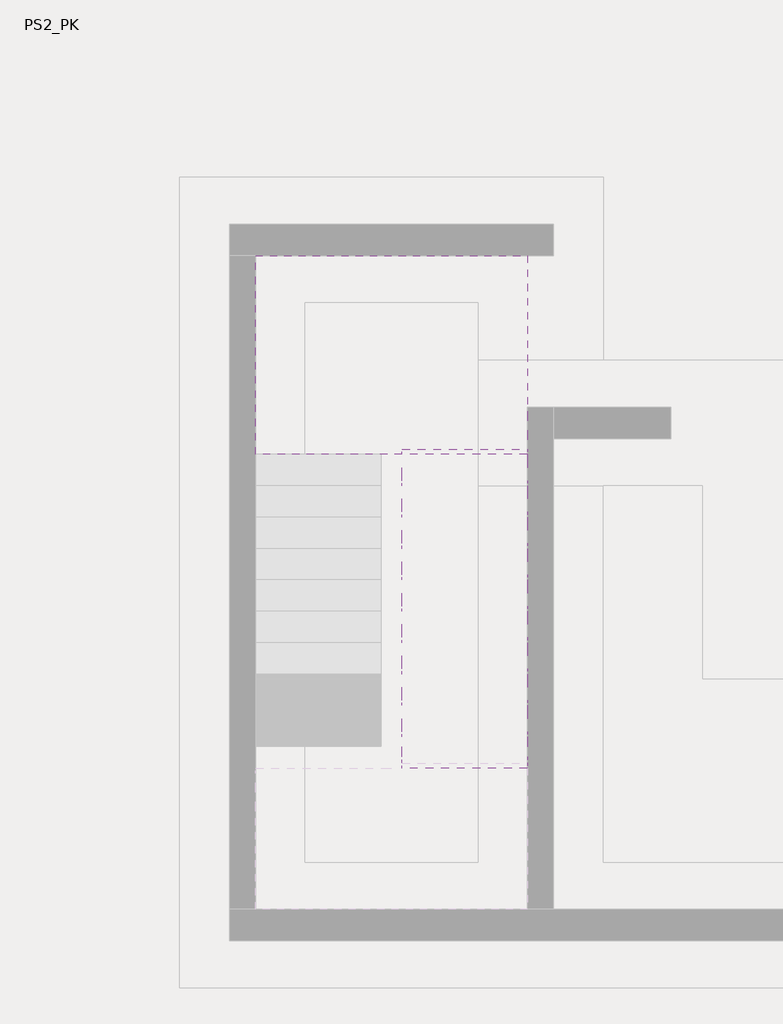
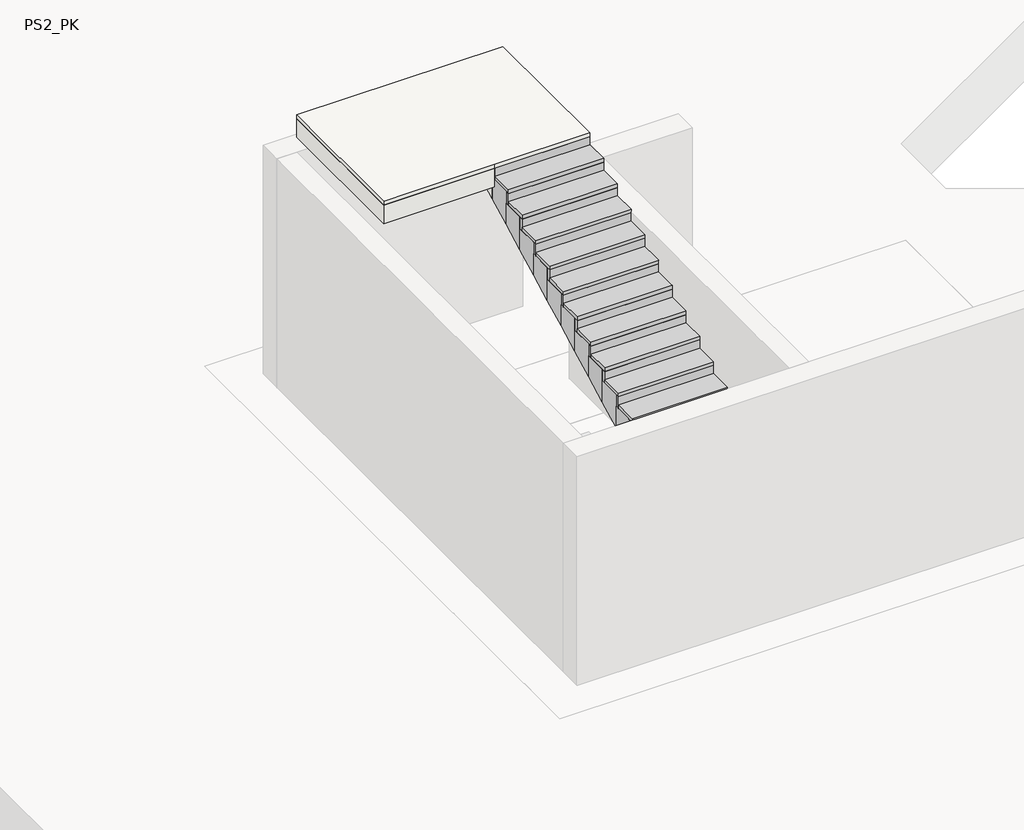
# One storey, part 10 of 10: 1 slab, 1 stair flight.
"""IFC4 building model written with IfcOpenShell, lengths in millimetres."""

from ifc_helpers import new_model, si_unit, frame, origin, place, context, project, spatial, polyline, outline, extrude, faceted_brep, element, save

model = new_model("IFC4")

# Units and contexts
model_context = context("Model", 3, world=origin())
ifc_project = project(units=[si_unit("LENGTHUNIT", "METRE", prefix="MILLI")], contexts=[model_context])

# Site, building, storey
site = spatial("IfcSite", under=ifc_project)
building = spatial("IfcBuilding", under=site)
storey = spatial("IfcBuildingStorey", under=building, Name="PS2_PK", Elevation=-1600.0)

# Slab
placement = place(None, origin())
element("IfcSlab", 1, ObjectType="250mm_Thickness", at=placement, inside=storey, context=model_context, shape_type="SolidModel", body=[
    faceted_brep([(-11990.2146087, 11964.882711, 1900.0), (-11990.2146087, 12014.882711, 1900.0), (-10790.2146087, 12014.882711, 1900.0), (-10790.2146087, 12376.2823452, 1900.0), (-10790.2146087, 13864.8960687, 1900.0), (-13390.3216429, 13864.8960687, 1900.0), (-13390.3216429, 11964.882711, 1900.0), (-13390.3216429, 13864.8960687, 1650.0), (-13390.3216429, 11964.882711, 1650.0), (-10790.2146087, 12014.882711, 1743.1818182), (-10790.2146087, 12014.882711, 1461.0865548), (-10790.2146087, 12376.2823452, 1650.0), (-10790.2146087, 13864.8960687, 1650.0), (-11990.2146087, 12376.2823452, 1650.0), (-11990.2146087, 12014.882711, 1650.0), (-11990.2146087, 11964.882711, 1650.0), (-11990.2146087, 12014.882711, 1743.1818182), (-11990.2146087, 12014.882711, 1461.0865548)], [[[0, 1, 2, 3, 4, 5, 6]], [[6, 5, 7, 8]], [[2, 9, 10, 11, 12, 4, 3]], [[5, 4, 12, 7]], [[11, 13, 14, 15, 8, 7, 12]], [[1, 0, 15, 14, 16]], [[2, 1, 16, 14, 17, 10, 9]], [[0, 6, 8, 15]], [[13, 11, 10, 17]], [[14, 13, 17]]]),
    extrude(outline(polyline([(-11990.2146087, 11964.882711), (-13390.3216429, 11964.882711), (-13390.3216429, 13864.8960687), (-10790.2146087, 13864.8960687), (-10790.2146087, 11964.882711), (-11990.2146087, 11964.882711)])), frame((0.0, 0.0, 1900.0), z_axis=(0.0, 0.0, 1.0), x_axis=(1.0, 0.0, 0.0)), (0.0, 0.0, 1.0), 50.0),
])

# Stair flight
element("IfcStairFlight", 2, ObjectType="250mm Depth", at=placement, inside=storey, context=model_context, shape_type="SolidModel", body=[
    faceted_brep([(-11990.2146087, 9014.882711, 331.8181818), (-10790.2146087, 9014.882711, 331.8181818), (-10790.2146087, 9076.2823452, 331.8181818), (-10790.2146087, 9314.882711, 331.8181818), (-11990.2146087, 9314.882711, 331.8181818), (-11990.2146087, 9076.2823452, 331.8181818), (-11990.2146087, 9314.882711, 49.7229185), (-11990.2146087, 9076.2823452, -75.0), (-11990.2146087, 9014.882711, -75.0), (-11990.2146087, 9014.882711, 175.0), (-10790.2146087, 9014.882711, -75.0), (-10790.2146087, 9014.882711, 175.0), (-10790.2146087, 9076.2823452, -75.0), (-10790.2146087, 9314.882711, 49.7229185), (-11990.2146087, 9614.882711, 488.6363636), (-11990.2146087, 9314.882711, 488.6363636), (-10790.2146087, 9314.882711, 488.6363636), (-10790.2146087, 9614.882711, 488.6363636), (-11990.2146087, 9614.882711, 206.5411003), (-10790.2146087, 9614.882711, 206.5411003), (-11990.2146087, 9914.882711, 645.4545455), (-11990.2146087, 9614.882711, 645.4545455), (-10790.2146087, 9614.882711, 645.4545455), (-10790.2146087, 9914.882711, 645.4545455), (-11990.2146087, 9914.882711, 363.3592821), (-10790.2146087, 9914.882711, 363.3592821), (-11990.2146087, 10214.882711, 802.2727273), (-11990.2146087, 9914.882711, 802.2727273), (-10790.2146087, 9914.882711, 802.2727273), (-10790.2146087, 10214.882711, 802.2727273), (-11990.2146087, 10214.882711, 520.1774639), (-10790.2146087, 10214.882711, 520.1774639), (-11990.2146087, 10514.882711, 959.0909091), (-11990.2146087, 10214.882711, 959.0909091), (-10790.2146087, 10214.882711, 959.0909091), (-10790.2146087, 10514.882711, 959.0909091), (-11990.2146087, 10514.882711, 676.9956457), (-10790.2146087, 10514.882711, 676.9956457), (-11990.2146087, 10814.882711, 1115.9090909), (-11990.2146087, 10514.882711, 1115.9090909), (-10790.2146087, 10514.882711, 1115.9090909), (-10790.2146087, 10814.882711, 1115.9090909), (-11990.2146087, 10814.882711, 833.8138276), (-10790.2146087, 10814.882711, 833.8138276), (-11990.2146087, 11114.882711, 1272.7272727), (-11990.2146087, 10814.882711, 1272.7272727), (-10790.2146087, 10814.882711, 1272.7272727), (-10790.2146087, 11114.882711, 1272.7272727), (-11990.2146087, 11114.882711, 990.6320094), (-10790.2146087, 11114.882711, 990.6320094), (-11990.2146087, 11414.882711, 1429.5454545), (-11990.2146087, 11114.882711, 1429.5454545), (-10790.2146087, 11114.882711, 1429.5454545), (-10790.2146087, 11414.882711, 1429.5454545), (-11990.2146087, 11414.882711, 1147.4501912), (-10790.2146087, 11414.882711, 1147.4501912), (-11990.2146087, 11714.882711, 1586.3636364), (-11990.2146087, 11414.882711, 1586.3636364), (-10790.2146087, 11414.882711, 1586.3636364), (-10790.2146087, 11714.882711, 1586.3636364), (-11990.2146087, 11714.882711, 1304.268373), (-10790.2146087, 11714.882711, 1304.268373), (-11990.2146087, 11714.882711, 1743.1818182), (-10790.2146087, 11714.882711, 1743.1818182), (-10790.2146087, 11964.882711, 1743.1818182), (-10790.2146087, 12014.882711, 1743.1818182), (-11990.2146087, 12014.882711, 1743.1818182), (-11990.2146087, 11964.882711, 1743.1818182), (-11990.2146087, 12014.882711, 1650.0), (-11990.2146087, 12014.882711, 1461.0865548), (-10790.2146087, 11964.882711, 1434.9501912), (-10790.2146087, 12014.882711, 1461.0865548)], [[[0, 1, 2, 3, 4, 5]], [[4, 6, 7, 8, 9, 0, 5]], [[1, 0, 9, 8, 10, 11]], [[1, 11, 10, 12, 13, 3, 2]], [[14, 15, 16, 17]], [[15, 14, 18, 6, 4]], [[16, 15, 4, 3]], [[17, 16, 3, 13, 19]], [[20, 21, 22, 23]], [[21, 20, 24, 18, 14]], [[22, 21, 14, 17]], [[23, 22, 17, 19, 25]], [[26, 27, 28, 29]], [[27, 26, 30, 24, 20]], [[28, 27, 20, 23]], [[29, 28, 23, 25, 31]], [[32, 33, 34, 35]], [[33, 32, 36, 30, 26]], [[34, 33, 26, 29]], [[35, 34, 29, 31, 37]], [[38, 39, 40, 41]], [[39, 38, 42, 36, 32]], [[40, 39, 32, 35]], [[41, 40, 35, 37, 43]], [[44, 45, 46, 47]], [[45, 44, 48, 42, 38]], [[46, 45, 38, 41]], [[47, 46, 41, 43, 49]], [[50, 51, 52, 53]], [[51, 50, 54, 48, 44]], [[52, 51, 44, 47]], [[53, 52, 47, 49, 55]], [[56, 57, 58, 59]], [[57, 56, 60, 54, 50]], [[58, 57, 50, 53]], [[59, 58, 53, 55, 61]], [[62, 63, 64, 65, 66, 67]], [[56, 62, 67, 66, 68, 69, 60]], [[63, 62, 56, 59]], [[63, 59, 61, 70, 71, 65, 64]], [[66, 65, 71, 69, 68]], [[12, 7, 6, 18, 24, 30, 36, 42, 48, 54, 60, 69, 71, 70, 61, 55, 49, 43, 37, 31, 25, 19, 13]], [[7, 12, 10, 8]]]),
    extrude(outline(polyline([(-10790.2146087, 9014.882711), (-10790.2146087, 8964.882711), (-11990.2146087, 8964.882711), (-11990.2146087, 9014.882711), (-10790.2146087, 9014.882711)])), frame((0.0, 0.0, 175.0), z_axis=(0.0, 0.0, 1.0), x_axis=(1.0, 0.0, 0.0)), (0.0, 0.0, 1.0), 156.8181818),
    extrude(outline(polyline([(-11990.2146087, 9264.882711), (-10790.2146087, 9264.882711), (-10790.2146087, 8964.882711), (-11990.2146087, 8964.882711), (-11990.2146087, 9264.882711)])), frame((0.0, 0.0, 331.8181818), z_axis=(0.0, 0.0, 1.0), x_axis=(1.0, 0.0, 0.0)), (0.0, 0.0, 1.0), 50.0),
    extrude(outline(polyline([(-10790.2146087, 9314.882711), (-10790.2146087, 9264.882711), (-11990.2146087, 9264.882711), (-11990.2146087, 9314.882711), (-10790.2146087, 9314.882711)])), frame((0.0, 0.0, 331.8181818), z_axis=(0.0, 0.0, 1.0), x_axis=(1.0, 0.0, 0.0)), (0.0, 0.0, 1.0), 156.8181818),
    extrude(outline(polyline([(-11990.2146087, 9564.882711), (-10790.2146087, 9564.882711), (-10790.2146087, 9264.882711), (-11990.2146087, 9264.882711), (-11990.2146087, 9564.882711)])), frame((0.0, 0.0, 488.6363636), z_axis=(0.0, 0.0, 1.0), x_axis=(1.0, 0.0, 0.0)), (0.0, 0.0, 1.0), 50.0),
    extrude(outline(polyline([(-10790.2146087, 9614.882711), (-10790.2146087, 9564.882711), (-11990.2146087, 9564.882711), (-11990.2146087, 9614.882711), (-10790.2146087, 9614.882711)])), frame((0.0, 0.0, 488.6363636), z_axis=(0.0, 0.0, 1.0), x_axis=(1.0, 0.0, 0.0)), (0.0, 0.0, 1.0), 156.8181818),
    extrude(outline(polyline([(-11990.2146087, 9864.882711), (-10790.2146087, 9864.882711), (-10790.2146087, 9564.882711), (-11990.2146087, 9564.882711), (-11990.2146087, 9864.882711)])), frame((0.0, 0.0, 645.4545455), z_axis=(0.0, 0.0, 1.0), x_axis=(1.0, 0.0, 0.0)), (0.0, 0.0, 1.0), 50.0),
    extrude(outline(polyline([(-10790.2146087, 9914.882711), (-10790.2146087, 9864.882711), (-11990.2146087, 9864.882711), (-11990.2146087, 9914.882711), (-10790.2146087, 9914.882711)])), frame((0.0, 0.0, 645.4545455), z_axis=(0.0, 0.0, 1.0), x_axis=(1.0, 0.0, 0.0)), (0.0, 0.0, 1.0), 156.8181818),
    extrude(outline(polyline([(-11990.2146087, 10164.882711), (-10790.2146087, 10164.882711), (-10790.2146087, 9864.882711), (-11990.2146087, 9864.882711), (-11990.2146087, 10164.882711)])), frame((0.0, 0.0, 802.2727273), z_axis=(0.0, 0.0, 1.0), x_axis=(1.0, 0.0, 0.0)), (0.0, 0.0, 1.0), 50.0),
    extrude(outline(polyline([(-10790.2146087, 10214.882711), (-10790.2146087, 10164.882711), (-11990.2146087, 10164.882711), (-11990.2146087, 10214.882711), (-10790.2146087, 10214.882711)])), frame((0.0, 0.0, 802.2727273), z_axis=(0.0, 0.0, 1.0), x_axis=(1.0, 0.0, 0.0)), (0.0, 0.0, 1.0), 156.8181818),
    extrude(outline(polyline([(-11990.2146087, 10464.882711), (-10790.2146087, 10464.882711), (-10790.2146087, 10164.882711), (-11990.2146087, 10164.882711), (-11990.2146087, 10464.882711)])), frame((0.0, 0.0, 959.0909091), z_axis=(0.0, 0.0, 1.0), x_axis=(1.0, 0.0, 0.0)), (0.0, 0.0, 1.0), 50.0),
    extrude(outline(polyline([(-10790.2146087, 10514.882711), (-10790.2146087, 10464.882711), (-11990.2146087, 10464.882711), (-11990.2146087, 10514.882711), (-10790.2146087, 10514.882711)])), frame((0.0, 0.0, 959.0909091), z_axis=(0.0, 0.0, 1.0), x_axis=(1.0, 0.0, 0.0)), (0.0, 0.0, 1.0), 156.8181818),
    extrude(outline(polyline([(-11990.2146087, 10764.882711), (-10790.2146087, 10764.882711), (-10790.2146087, 10464.882711), (-11990.2146087, 10464.882711), (-11990.2146087, 10764.882711)])), frame((0.0, 0.0, 1115.9090909), z_axis=(0.0, 0.0, 1.0), x_axis=(1.0, 0.0, 0.0)), (0.0, 0.0, 1.0), 50.0),
    extrude(outline(polyline([(-10790.2146087, 10814.882711), (-10790.2146087, 10764.882711), (-11990.2146087, 10764.882711), (-11990.2146087, 10814.882711), (-10790.2146087, 10814.882711)])), frame((0.0, 0.0, 1115.9090909), z_axis=(0.0, 0.0, 1.0), x_axis=(1.0, 0.0, 0.0)), (0.0, 0.0, 1.0), 156.8181818),
    extrude(outline(polyline([(-11990.2146087, 11064.882711), (-10790.2146087, 11064.882711), (-10790.2146087, 10764.882711), (-11990.2146087, 10764.882711), (-11990.2146087, 11064.882711)])), frame((0.0, 0.0, 1272.7272727), z_axis=(0.0, 0.0, 1.0), x_axis=(1.0, 0.0, 0.0)), (0.0, 0.0, 1.0), 50.0),
    extrude(outline(polyline([(-10790.2146087, 11114.882711), (-10790.2146087, 11064.882711), (-11990.2146087, 11064.882711), (-11990.2146087, 11114.882711), (-10790.2146087, 11114.882711)])), frame((0.0, 0.0, 1272.7272727), z_axis=(0.0, 0.0, 1.0), x_axis=(1.0, 0.0, 0.0)), (0.0, 0.0, 1.0), 156.8181818),
    extrude(outline(polyline([(-11990.2146087, 11364.882711), (-10790.2146087, 11364.882711), (-10790.2146087, 11064.882711), (-11990.2146087, 11064.882711), (-11990.2146087, 11364.882711)])), frame((0.0, 0.0, 1429.5454545), z_axis=(0.0, 0.0, 1.0), x_axis=(1.0, 0.0, 0.0)), (0.0, 0.0, 1.0), 50.0),
    extrude(outline(polyline([(-10790.2146087, 11414.882711), (-10790.2146087, 11364.882711), (-11990.2146087, 11364.882711), (-11990.2146087, 11414.882711), (-10790.2146087, 11414.882711)])), frame((0.0, 0.0, 1429.5454545), z_axis=(0.0, 0.0, 1.0), x_axis=(1.0, 0.0, 0.0)), (0.0, 0.0, 1.0), 156.8181818),
    extrude(outline(polyline([(-11990.2146087, 11664.882711), (-10790.2146087, 11664.882711), (-10790.2146087, 11364.882711), (-11990.2146087, 11364.882711), (-11990.2146087, 11664.882711)])), frame((0.0, 0.0, 1586.3636364), z_axis=(0.0, 0.0, 1.0), x_axis=(1.0, 0.0, 0.0)), (0.0, 0.0, 1.0), 50.0),
    extrude(outline(polyline([(-10790.2146087, 11714.882711), (-10790.2146087, 11664.882711), (-11990.2146087, 11664.882711), (-11990.2146087, 11714.882711), (-10790.2146087, 11714.882711)])), frame((0.0, 0.0, 1586.3636364), z_axis=(0.0, 0.0, 1.0), x_axis=(1.0, 0.0, 0.0)), (0.0, 0.0, 1.0), 156.8181818),
    extrude(outline(polyline([(-10790.2146087, 12014.882711), (-10790.2146087, 11964.882711), (-11990.2146087, 11964.882711), (-11990.2146087, 12014.882711), (-10790.2146087, 12014.882711)])), frame((0.0, 0.0, 1743.1818182), z_axis=(0.0, 0.0, 1.0), x_axis=(1.0, 0.0, 0.0)), (0.0, 0.0, 1.0), 156.8181818),
    extrude(outline(polyline([(-11990.2146087, 11964.882711), (-10790.2146087, 11964.882711), (-10790.2146087, 11664.882711), (-11990.2146087, 11664.882711), (-11990.2146087, 11964.882711)])), frame((0.0, 0.0, 1743.1818182), z_axis=(0.0, 0.0, 1.0), x_axis=(1.0, 0.0, 0.0)), (0.0, 0.0, 1.0), 50.0),
])

save(model, "model.ifc")
